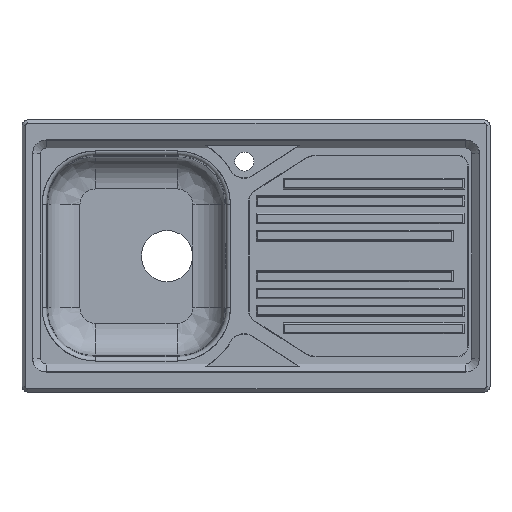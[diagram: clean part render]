
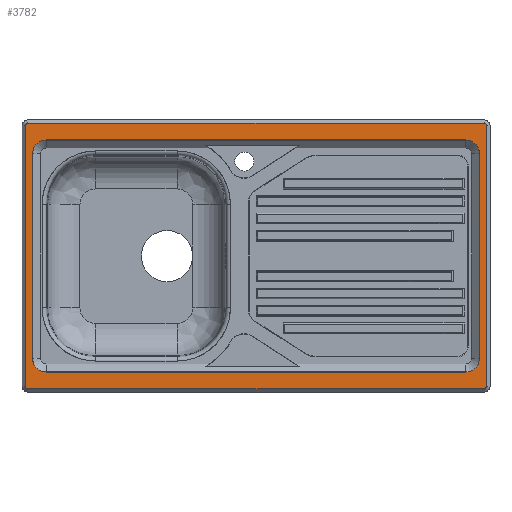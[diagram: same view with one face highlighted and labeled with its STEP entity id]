
A CAD part, top view. The second image highlights one B-rep face of the part: STEP entity #3782.
In plain terms, the highlighted planar face has unit normal (0, 0, 1).
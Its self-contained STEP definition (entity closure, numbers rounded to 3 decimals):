
#420=CARTESIAN_POINT('Vertex',(-385.5,213.,15.)) ;
#423=CARTESIAN_POINT('Axis2P3D Location',(-385.5,188.,15.)) ;
#427=CARTESIAN_POINT('Vertex',(-410.5,188.,15.)) ;
#447=CARTESIAN_POINT('Line Origine',(-410.5,0.,15.)) ;
#451=CARTESIAN_POINT('Vertex',(-410.5,-188.,15.)) ;
#471=CARTESIAN_POINT('Axis2P3D Location',(-385.5,-188.,15.)) ;
#475=CARTESIAN_POINT('Vertex',(-385.5,-213.,15.)) ;
#514=CARTESIAN_POINT('Line Origine',(0.,-213.,15.)) ;
#518=CARTESIAN_POINT('Vertex',(385.5,-213.,15.)) ;
#542=CARTESIAN_POINT('Axis2P3D Location',(385.5,-188.,15.)) ;
#546=CARTESIAN_POINT('Vertex',(410.5,-188.,15.)) ;
#566=CARTESIAN_POINT('Line Origine',(410.5,0.,15.)) ;
#570=CARTESIAN_POINT('Vertex',(410.5,188.,15.)) ;
#590=CARTESIAN_POINT('Axis2P3D Location',(385.5,188.,15.)) ;
#594=CARTESIAN_POINT('Vertex',(385.5,213.,15.)) ;
#2909=CARTESIAN_POINT('Vertex',(-424.,-239.,15.)) ;
#2921=CARTESIAN_POINT('Vertex',(-419.,-244.,15.)) ;
#2924=CARTESIAN_POINT('Axis2P3D Location',(-419.,-239.,15.)) ;
#3265=CARTESIAN_POINT('Vertex',(-419.,244.,15.)) ;
#3272=CARTESIAN_POINT('Vertex',(-424.,239.,15.)) ;
#3275=CARTESIAN_POINT('Axis2P3D Location',(-419.,239.,15.)) ;
#3296=CARTESIAN_POINT('Vertex',(424.,239.,15.)) ;
#3303=CARTESIAN_POINT('Vertex',(419.,244.,15.)) ;
#3306=CARTESIAN_POINT('Axis2P3D Location',(419.,239.,15.)) ;
#3327=CARTESIAN_POINT('Vertex',(419.,-244.,15.)) ;
#3334=CARTESIAN_POINT('Vertex',(424.,-239.,15.)) ;
#3337=CARTESIAN_POINT('Axis2P3D Location',(419.,-239.,15.)) ;
#3415=CARTESIAN_POINT('Line Origine',(-424.,0.,15.)) ;
#3432=CARTESIAN_POINT('Line Origine',(0.,244.,15.)) ;
#3449=CARTESIAN_POINT('Line Origine',(424.,0.,15.)) ;
#3466=CARTESIAN_POINT('Line Origine',(0.,-244.,15.)) ;
#3752=CARTESIAN_POINT('Axis2P3D Location',(0.,0.,15.)) ;
#3767=CARTESIAN_POINT('Line Origine',(0.,213.,15.)) ;
#424=DIRECTION('Axis2P3D Direction',(0.,0.,1.)) ;
#448=DIRECTION('Vector Direction',(0.,1.,0.)) ;
#472=DIRECTION('Axis2P3D Direction',(0.,0.,1.)) ;
#515=DIRECTION('Vector Direction',(-1.,0.,0.)) ;
#543=DIRECTION('Axis2P3D Direction',(0.,0.,1.)) ;
#567=DIRECTION('Vector Direction',(0.,-1.,0.)) ;
#591=DIRECTION('Axis2P3D Direction',(0.,0.,1.)) ;
#2925=DIRECTION('Axis2P3D Direction',(0.,0.,1.)) ;
#3276=DIRECTION('Axis2P3D Direction',(0.,0.,1.)) ;
#3307=DIRECTION('Axis2P3D Direction',(0.,0.,1.)) ;
#3338=DIRECTION('Axis2P3D Direction',(0.,0.,1.)) ;
#3416=DIRECTION('Vector Direction',(0.,1.,0.)) ;
#3433=DIRECTION('Vector Direction',(1.,0.,0.)) ;
#3450=DIRECTION('Vector Direction',(0.,-1.,0.)) ;
#3467=DIRECTION('Vector Direction',(-1.,0.,0.)) ;
#3753=DIRECTION('Axis2P3D Direction',(0.,0.,1.)) ;
#3754=DIRECTION('Axis2P3D XDirection',(1.,0.,0.)) ;
#3768=DIRECTION('Vector Direction',(1.,0.,0.)) ;
#425=AXIS2_PLACEMENT_3D('Circle Axis2P3D',#423,#424,$) ;
#473=AXIS2_PLACEMENT_3D('Circle Axis2P3D',#471,#472,$) ;
#544=AXIS2_PLACEMENT_3D('Circle Axis2P3D',#542,#543,$) ;
#592=AXIS2_PLACEMENT_3D('Circle Axis2P3D',#590,#591,$) ;
#2926=AXIS2_PLACEMENT_3D('Circle Axis2P3D',#2924,#2925,$) ;
#3277=AXIS2_PLACEMENT_3D('Circle Axis2P3D',#3275,#3276,$) ;
#3308=AXIS2_PLACEMENT_3D('Circle Axis2P3D',#3306,#3307,$) ;
#3339=AXIS2_PLACEMENT_3D('Circle Axis2P3D',#3337,#3338,$) ;
#3755=AXIS2_PLACEMENT_3D('Plane Axis2P3D',#3752,#3753,#3754) ;
#3758=ORIENTED_EDGE('',*,*,#3436,.T.) ;
#3759=ORIENTED_EDGE('',*,*,#3279,.T.) ;
#3760=ORIENTED_EDGE('',*,*,#3419,.T.) ;
#3761=ORIENTED_EDGE('',*,*,#2928,.T.) ;
#3762=ORIENTED_EDGE('',*,*,#3470,.T.) ;
#3763=ORIENTED_EDGE('',*,*,#3341,.T.) ;
#3764=ORIENTED_EDGE('',*,*,#3453,.T.) ;
#3765=ORIENTED_EDGE('',*,*,#3310,.T.) ;
#3773=ORIENTED_EDGE('',*,*,#548,.T.) ;
#3774=ORIENTED_EDGE('',*,*,#520,.T.) ;
#3775=ORIENTED_EDGE('',*,*,#477,.T.) ;
#3776=ORIENTED_EDGE('',*,*,#453,.T.) ;
#3777=ORIENTED_EDGE('',*,*,#429,.T.) ;
#3778=ORIENTED_EDGE('',*,*,#3771,.T.) ;
#3779=ORIENTED_EDGE('',*,*,#596,.T.) ;
#3780=ORIENTED_EDGE('',*,*,#572,.T.) ;
#3781=FACE_BOUND('',#3772,.T.) ;
#449=VECTOR('Line Direction',#448,1.) ;
#516=VECTOR('Line Direction',#515,1.) ;
#568=VECTOR('Line Direction',#567,1.) ;
#3417=VECTOR('Line Direction',#3416,1.) ;
#3434=VECTOR('Line Direction',#3433,1.) ;
#3451=VECTOR('Line Direction',#3450,1.) ;
#3468=VECTOR('Line Direction',#3467,1.) ;
#3769=VECTOR('Line Direction',#3768,1.) ;
#3782=ADVANCED_FACE('Lavello',(#3766,#3781),#3756,.T.) ;
#426=CIRCLE('generated circle',#425,25.) ;
#474=CIRCLE('generated circle',#473,25.) ;
#545=CIRCLE('generated circle',#544,25.) ;
#593=CIRCLE('generated circle',#592,25.) ;
#2927=CIRCLE('generated circle',#2926,5.) ;
#3278=CIRCLE('generated circle',#3277,5.) ;
#3309=CIRCLE('generated circle',#3308,5.) ;
#3340=CIRCLE('generated circle',#3339,5.) ;
#429=EDGE_CURVE('',#428,#421,#426,.F.) ;
#453=EDGE_CURVE('',#452,#428,#450,.T.) ;
#477=EDGE_CURVE('',#476,#452,#474,.F.) ;
#520=EDGE_CURVE('',#519,#476,#517,.T.) ;
#548=EDGE_CURVE('',#547,#519,#545,.F.) ;
#572=EDGE_CURVE('',#571,#547,#569,.T.) ;
#596=EDGE_CURVE('',#595,#571,#593,.F.) ;
#2928=EDGE_CURVE('',#2910,#2922,#2927,.T.) ;
#3279=EDGE_CURVE('',#3266,#3273,#3278,.T.) ;
#3310=EDGE_CURVE('',#3297,#3304,#3309,.T.) ;
#3341=EDGE_CURVE('',#3328,#3335,#3340,.T.) ;
#3419=EDGE_CURVE('',#3273,#2910,#3418,.F.) ;
#3436=EDGE_CURVE('',#3304,#3266,#3435,.F.) ;
#3453=EDGE_CURVE('',#3335,#3297,#3452,.F.) ;
#3470=EDGE_CURVE('',#2922,#3328,#3469,.F.) ;
#3771=EDGE_CURVE('',#421,#595,#3770,.T.) ;
#3757=EDGE_LOOP('',(#3758,#3759,#3760,#3761,#3762,#3763,#3764,#3765)) ;
#3772=EDGE_LOOP('',(#3773,#3774,#3775,#3776,#3777,#3778,#3779,#3780)) ;
#3766=FACE_OUTER_BOUND('',#3757,.T.) ;
#450=LINE('Line',#447,#449) ;
#517=LINE('Line',#514,#516) ;
#569=LINE('Line',#566,#568) ;
#3418=LINE('Line',#3415,#3417) ;
#3435=LINE('Line',#3432,#3434) ;
#3452=LINE('Line',#3449,#3451) ;
#3469=LINE('Line',#3466,#3468) ;
#3770=LINE('Line',#3767,#3769) ;
#3756=PLANE('',#3755) ;
#421=VERTEX_POINT('',#420) ;
#428=VERTEX_POINT('',#427) ;
#452=VERTEX_POINT('',#451) ;
#476=VERTEX_POINT('',#475) ;
#519=VERTEX_POINT('',#518) ;
#547=VERTEX_POINT('',#546) ;
#571=VERTEX_POINT('',#570) ;
#595=VERTEX_POINT('',#594) ;
#2910=VERTEX_POINT('',#2909) ;
#2922=VERTEX_POINT('',#2921) ;
#3266=VERTEX_POINT('',#3265) ;
#3273=VERTEX_POINT('',#3272) ;
#3297=VERTEX_POINT('',#3296) ;
#3304=VERTEX_POINT('',#3303) ;
#3328=VERTEX_POINT('',#3327) ;
#3335=VERTEX_POINT('',#3334) ;
